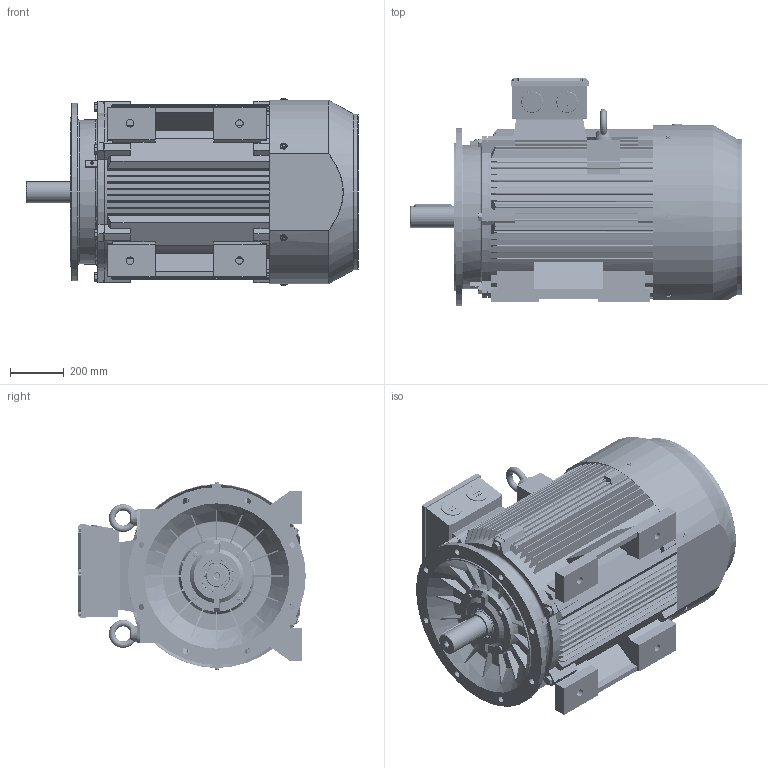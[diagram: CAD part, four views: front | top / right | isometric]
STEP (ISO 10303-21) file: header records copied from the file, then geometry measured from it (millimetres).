
FILE_DESCRIPTION (( 'STEP AP214' ), '1' );
FILE_NAME ('BCT4110.31A435.11.step', '2020-04-23T14:45:00', ( '' ), ( '' ), 'SwSTEP 2.0', 'SolidWorks 2019', '' );
FILE_SCHEMA (( 'AUTOMOTIVE_DESIGN' ));
Length unit declared in the file: millimetre
Products named in the file (1): BCT4110.31A435.11
Bounding box: 1232 x 844 x 694.6 mm (x, y, z)
Volume: 101962043.3 mm3; surface area: 12191505.8 mm2
Topology: 43 solids, 43 shells, 7844 faces, 21949 edges, 14392 vertices
Faces by surface type: plane 5695, cylinder 863, cone 434, torus 403, sphere 244, bspline 205
Entity records: 309086 total; most frequent: CARTESIAN_POINT 105657, ORIENTED_EDGE 43886, DIRECTION 37997, EDGE_CURVE 21943, VECTOR 16089, LINE 16089, VERTEX_POINT 14390, AXIS2_PLACEMENT_3D 10954
